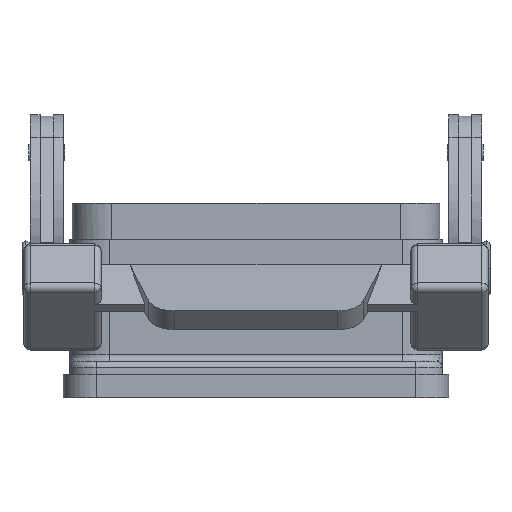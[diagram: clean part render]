
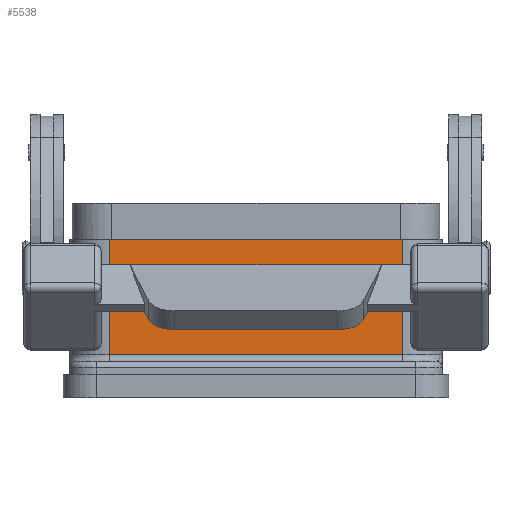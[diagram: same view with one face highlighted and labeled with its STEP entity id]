
A CAD part, left-side view. The second image highlights one B-rep face of the part: STEP entity #5538.
In plain terms, the highlighted planar face has unit normal (-1, 0, 0).
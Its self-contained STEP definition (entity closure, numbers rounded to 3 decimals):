
#4615 = VERTEX_POINT ( 'NONE', #21422 ) ;
#4619 = EDGE_CURVE ( 'NONE', #4615, #4621, #21417, .T. ) ;
#4621 = VERTEX_POINT ( 'NONE', #21412 ) ;
#5455 = EDGE_LOOP ( 'NONE', ( #5458, #5460, #5465, #5503 ) ) ;
#5458 = ORIENTED_EDGE ( 'NONE', *, *, #4619, .F. ) ;
#5460 = ORIENTED_EDGE ( 'NONE', *, *, #5461, .F. ) ;
#5461 = EDGE_CURVE ( 'NONE', #5463, #4615, #23605, .T. ) ;
#5463 = VERTEX_POINT ( 'NONE', #23601 ) ;
#5465 = ORIENTED_EDGE ( 'NONE', *, *, #5466, .T. ) ;
#5466 = EDGE_CURVE ( 'NONE', #5463, #5501, #23595, .T. ) ;
#5501 = VERTEX_POINT ( 'NONE', #23748 ) ;
#5503 = ORIENTED_EDGE ( 'NONE', *, *, #5504, .F. ) ;
#5504 = EDGE_CURVE ( 'NONE', #4621, #5501, #23746, .T. ) ;
#5538 = ADVANCED_FACE ( 'NONE', ( #23897 ), #23942, .F. ) ;
#21412 = CARTESIAN_POINT ( 'NONE',  ( -41.25, -22.25, 24. ) ) ;
#21414 = DIRECTION ( 'NONE',  ( 0., -1., 0. ) ) ;
#21415 = VECTOR ( 'NONE', #21414, 1000. ) ;
#21416 = CARTESIAN_POINT ( 'NONE',  ( -41.25, 22.25, 24. ) ) ;
#21417 = LINE ( 'NONE', #21416, #21415 ) ;
#21422 = CARTESIAN_POINT ( 'NONE',  ( -41.25, 22.25, 24. ) ) ;
#23592 = DIRECTION ( 'NONE',  ( 0., -1., 0. ) ) ;
#23593 = VECTOR ( 'NONE', #23592, 1000. ) ;
#23594 = CARTESIAN_POINT ( 'NONE',  ( -41.25, 11.125, 6.5 ) ) ;
#23595 = LINE ( 'NONE', #23594, #23593 ) ;
#23601 = CARTESIAN_POINT ( 'NONE',  ( -41.25, 22.25, 6.5 ) ) ;
#23602 = DIRECTION ( 'NONE',  ( 0., 0., 1. ) ) ;
#23603 = VECTOR ( 'NONE', #23602, 1000. ) ;
#23604 = CARTESIAN_POINT ( 'NONE',  ( -41.25, 22.25, 1.5 ) ) ;
#23605 = LINE ( 'NONE', #23604, #23603 ) ;
#23743 = DIRECTION ( 'NONE',  ( 0., 0., -1. ) ) ;
#23744 = VECTOR ( 'NONE', #23743, 1000. ) ;
#23745 = CARTESIAN_POINT ( 'NONE',  ( -41.25, -22.25, 1.5 ) ) ;
#23746 = LINE ( 'NONE', #23745, #23744 ) ;
#23748 = CARTESIAN_POINT ( 'NONE',  ( -41.25, -22.25, 6.5 ) ) ;
#23897 = FACE_OUTER_BOUND ( 'NONE', #5455, .T. ) ;
#23938 = DIRECTION ( 'NONE',  ( 0., 0., -1. ) ) ;
#23939 = DIRECTION ( 'NONE',  ( 1., 0., 0. ) ) ;
#23940 = CARTESIAN_POINT ( 'NONE',  ( -41.25, 22.25, 1.5 ) ) ;
#23941 = AXIS2_PLACEMENT_3D ( 'NONE', #23940, #23939, #23938 ) ;
#23942 = PLANE ( 'NONE',  #23941 ) ;
